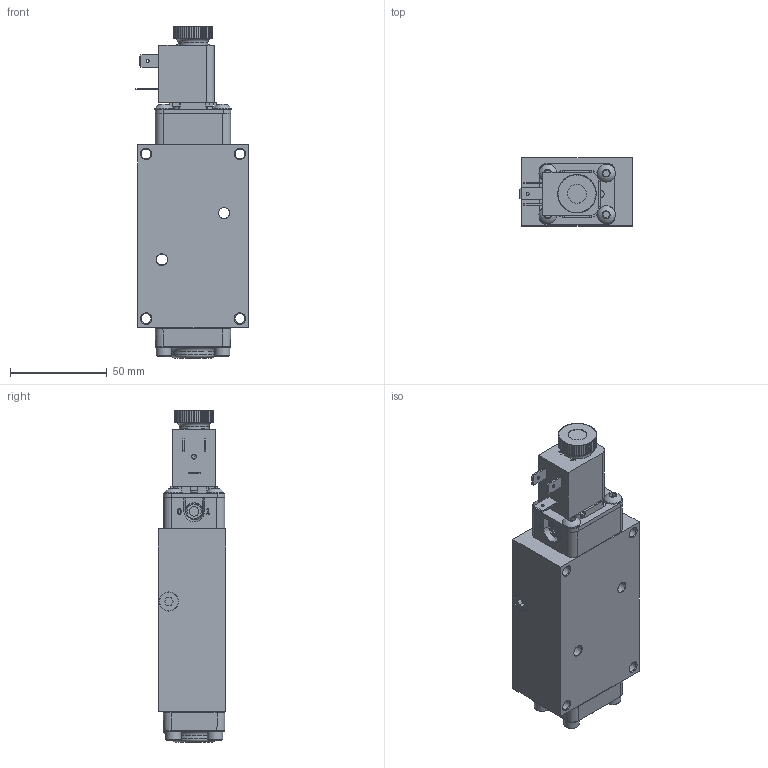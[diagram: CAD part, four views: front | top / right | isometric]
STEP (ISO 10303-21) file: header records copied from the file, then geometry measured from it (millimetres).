
FILE_DESCRIPTION(/* description */ (''),/* implementation_level */ '2;1');
FILE_NAME(/* name */ 'D:\Website Files\stp\Valves\Standard\ESO\ZNSO2L.stp',/* time_stamp */ '2015-09-29T08:13:45-04:00',/* author */ ('RMcKenna'),/* organization */ (''),/* preprocessor_version */ 'ST-DEVELOPER v15.6',/* originating_system */ 'Autodesk Inventor 2015',/* authorisation */ '');
FILE_SCHEMA (('AUTOMOTIVE_DESIGN { 1 0 10303 214 3 1 1 }'));
Products named in the file (1): Part33
Bounding box: 58.17 x 34.92 x 171.22 mm (x, y, z)
Volume: 208335.2 mm3; surface area: 68233.7 mm2
Topology: 1 solids, 21 shells, 1601 faces, 3983 edges, 2534 vertices
Faces by surface type: plane 777, cylinder 391, cone 247, torus 118, bspline 63, sphere 5
Full cylindrical faces by diameter (mm): 1.3 x1, 1.397 x1, 1.5 x1, 1.651 x3, 2.007 x2, 2.032 x4, 2.35 x4, 2.381 x1, 2.388 x2, 2.464 x1, 2.8 x1, 2.819 x1, 3 x4, 3.048 x1, 3.175 x3, 3.4 x1, 3.683 x9, 4.191 x2, 4.826 x8, 4.953 x1, 5.15 x4, 5.156 x12, 5.5 x1, 5.512 x1, 5.556 x2, 6.553 x1, 6.731 x1, 7.087 x3, 7.144 x1, 7.315 x1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
Entity records: 50206 total; most frequent: CARTESIAN_POINT 12295, DIRECTION 7454, ORIENTED_EDGE 7234, EDGE_CURVE 3615, AXIS2_PLACEMENT_3D 2807, VERTEX_POINT 2419, EDGE_LOOP 2024, LINE 1840
